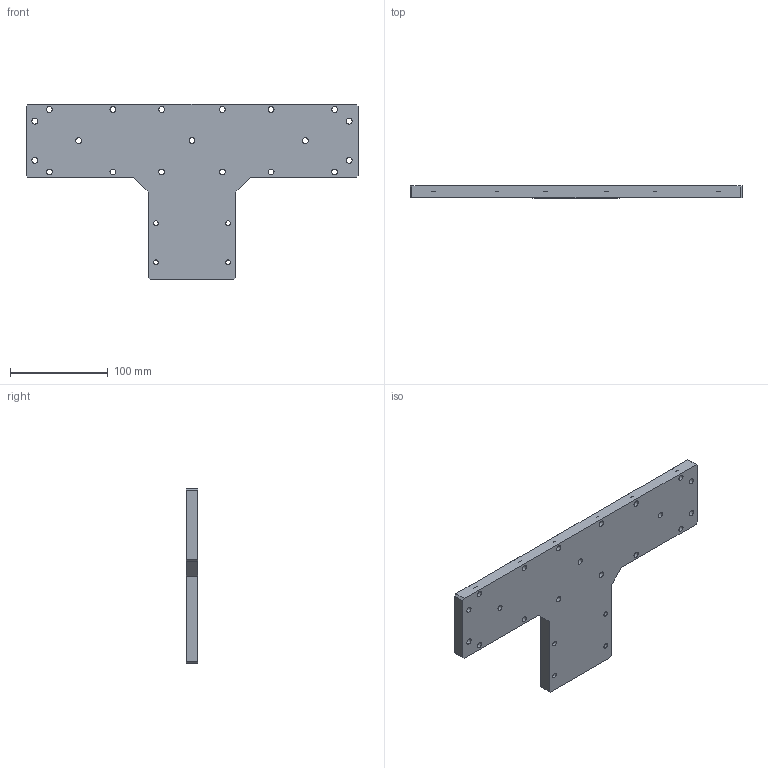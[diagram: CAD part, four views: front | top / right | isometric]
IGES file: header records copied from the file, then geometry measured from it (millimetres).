
Start section:  PTC IGES file: k60-k80m-ft.igs
Global section: file name: k60-k80m-ft.igs; native system: Pro/ENGINEER by Parametric Technology Corporation; preprocessor: 2008230; author: Owner; organization: Unknown; date: 20121212.105810; units: millimetre
Bounding box: 340 x 12 x 180 mm (x, y, z)
Surface area: 88121.6 mm2 (no closed solid volume)
Topology: 0 solids, 0 shells, 121 faces, 640 edges, 636 vertices
Faces by surface type: revolution 84, bspline 37
